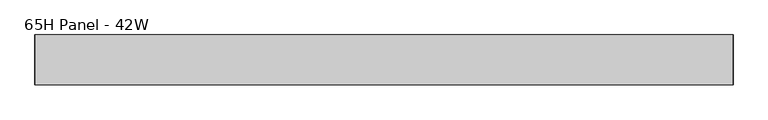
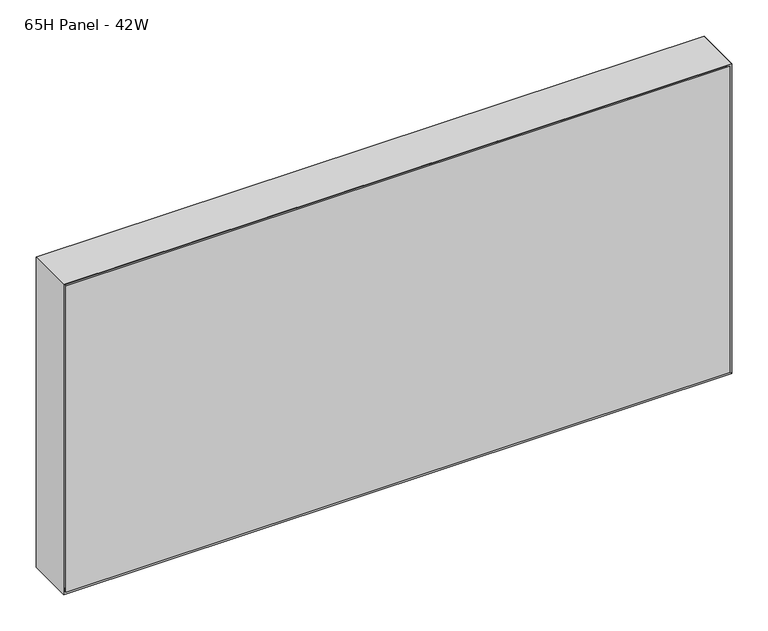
"""IFC4 building model written with IfcOpenShell, lengths in millimetres: furniture geometry, Steelcase - Montage - Frame - 20H - Enhanced Standard - Single Stack-On : 65H Panel - 42W."""

import ifcopenshell
import ifcopenshell.guid

model = None  # the IFC model being written
_history = None  # IfcOwnerHistory: only IFC2X3 demands one
_inside = {}  # id of a spatial element -> (the spatial element, [elements in it])
_under = {}  # id of a project, library or spatial element -> (it, [spatial elements below it])
_declared = {}  # id of a project -> (the project, [libraries it declares])
_typed = {}  # id of a type object -> (the type object, [elements of that type])
_made_of = {}  # id of a material, layer set ... -> (it, [elements and type objects made of it])


def new_model(schema):
    """Start an empty IFC model of exactly this schema.

    Asked for "IFC4X3", IfcOpenShell would pick the latest addendum, in which some entities
    have other attributes; the version numbers below select the first issue.
    IFC2X3 requires an IfcOwnerHistory on every rooted entity: one is made here for all.
    """
    global model, _history
    if schema == "IFC4X3":
        model = ifcopenshell.file(schema_version=(4, 3, 0, 0))
    else:
        model = ifcopenshell.file(schema=schema)
    _inside.clear()
    _under.clear()
    _declared.clear()
    _typed.clear()
    _made_of.clear()
    _history = None
    if model.schema == "IFC2X3":
        org = make("IfcOrganization", Name="unknown")
        user = make(
            "IfcPersonAndOrganization",
            ThePerson=make("IfcPerson", FamilyName="unknown"),
            TheOrganization=org,
        )
        app = make(
            "IfcApplication",
            ApplicationDeveloper=org,
            Version="unknown",
            ApplicationFullName="unknown",
            ApplicationIdentifier="unknown",
        )
        _history = make(
            "IfcOwnerHistory",
            OwningUser=user,
            OwningApplication=app,
            ChangeAction="ADDED",
            CreationDate=0,
        )
    return model


def make(cls, **values):
    """One entity of the class cls with the attributes given. An attribute that is None is left unset."""
    return model.create_entity(
        cls, **{name: value for name, value in values.items() if value is not None}
    )


def rooted(cls, **values):
    """An entity with a GlobalId (a new one), such as an element, a storey or a relation."""
    return make(cls, GlobalId=ifcopenshell.guid.new(), OwnerHistory=_history, **values)


def si_unit(unit_type, name, prefix=None):
    """IfcSIUnit, for example si_unit("LENGTHUNIT", "METRE", prefix="MILLI")."""
    return make("IfcSIUnit", UnitType=unit_type, Prefix=prefix, Name=name)


def assignment(units):
    """IfcUnitAssignment: the units of a project."""
    return None if units is None else make("IfcUnitAssignment", Units=units)


def point(xyz):
    """IfcCartesianPoint."""
    return None if xyz is None else make("IfcCartesianPoint", Coordinates=xyz)


def direction(xyz):
    """IfcDirection."""
    return None if xyz is None else make("IfcDirection", DirectionRatios=xyz)


def frame(location, z_axis=None, x_axis=None):
    """IfcAxis2Placement3D, a coordinate frame: its origin and axes. An axis left out is left unset."""
    return make(
        "IfcAxis2Placement3D",
        Location=point(location),
        Axis=direction(z_axis),
        RefDirection=direction(x_axis),
    )


def origin():
    """The frame at (0, 0, 0) with its axes left unset."""
    return frame((0.0, 0.0, 0.0))


def place(relative_to, where):
    """IfcLocalPlacement: puts the frame where relative to a parent placement (None: the world)."""
    return make(
        "IfcLocalPlacement", PlacementRelTo=relative_to, RelativePlacement=where
    )


def context(
    kind, dimensions, precision=None, world=None, true_north=None, identifier=None
):
    """IfcGeometricRepresentationContext, for example the 3D "Model" context."""
    return make(
        "IfcGeometricRepresentationContext",
        ContextIdentifier=identifier,
        ContextType=kind,
        CoordinateSpaceDimension=dimensions,
        Precision=precision,
        WorldCoordinateSystem=world,
        TrueNorth=true_north,
    )


def project(units=None, contexts=None):
    """IfcProject with its units and contexts."""
    return rooted(
        "IfcProject",
        Name="project",
        RepresentationContexts=contexts,
        UnitsInContext=assignment(units),
    )


def spatial(cls, under=None, at=None, **own):
    """A site, building, storey or space (cls), placed at a placement, below another one or the project."""
    s = rooted(cls, ObjectPlacement=at, **own)
    if under is not None:
        _under.setdefault(under.id(), (under, []))[1].append(s)
    return s


def polyline(points):
    """IfcPolyline through the points."""
    return make("IfcPolyline", Points=[point(p) for p in points])


def outline(outer, holes=None, kind="AREA"):
    """IfcArbitraryClosedProfileDef: a profile drawn as a closed curve; with holes, ...WithVoids."""
    if holes is None:
        return make("IfcArbitraryClosedProfileDef", ProfileType=kind, OuterCurve=outer)
    return make(
        "IfcArbitraryProfileDefWithVoids",
        ProfileType=kind,
        OuterCurve=outer,
        InnerCurves=holes,
    )


def extrude(swept, where, along, depth):
    """IfcExtrudedAreaSolid: the profile swept, set in the frame where, extruded along a direction by depth."""
    return make(
        "IfcExtrudedAreaSolid",
        SweptArea=swept,
        Position=where,
        ExtrudedDirection=direction(along),
        Depth=depth,
    )


def faces_of(points, faces, orient=None, outer=None):
    """IfcFace entities. A face is a list of loops; a loop is a list of indices into points, from 0.

    orient and outer hold one flag for each loop. By default every Orientation is true, the
    first loop of a face is its IfcFaceOuterBound and the others are IfcFaceBound.
    """
    made = []
    for i, loops in enumerate(faces):
        bounds = []
        for j, loop in enumerate(loops):
            is_outer = j == 0 if outer is None else outer[i][j]
            bounds.append(
                make(
                    "IfcFaceOuterBound" if is_outer else "IfcFaceBound",
                    Bound=make("IfcPolyLoop", Polygon=[points[k] for k in loop]),
                    Orientation=True if orient is None else orient[i][j],
                )
            )
        made.append(make("IfcFace", Bounds=bounds))
    return made


def faceted_brep(points, faces, orient=None, outer=None, voids=None):
    """IfcFacetedBrep: a solid bounded by flat faces; with voids (closed shells), ...WithVoids."""
    shared = [point(p) for p in points]
    hull = make("IfcClosedShell", CfsFaces=faces_of(shared, faces, orient, outer))
    if voids is None:
        return make("IfcFacetedBrep", Outer=hull)
    return make(
        "IfcFacetedBrepWithVoids",
        Outer=hull,
        Voids=[
            make(cls, CfsFaces=faces_of(shared, fs, o, b)) for cls, fs, o, b in voids
        ],
    )


def shape(context_of_items, identifier, shape_type, items):
    """IfcShapeRepresentation: the items that make up one representation, for example the "Body"."""
    return make(
        "IfcShapeRepresentation",
        ContextOfItems=context_of_items,
        RepresentationIdentifier=identifier,
        RepresentationType=shape_type,
        Items=items,
    )


def source(mapping_origin, context_of_items, identifier, shape_type, items):
    """IfcRepresentationMap: a shape defined once, which mapped items show again and again."""
    return make(
        "IfcRepresentationMap",
        MappingOrigin=mapping_origin,
        MappedRepresentation=shape(context_of_items, identifier, shape_type, items),
    )


def transform(
    local_origin,
    x_axis=None,
    y_axis=None,
    z_axis=None,
    scale=None,
    scale2=None,
    scale3=None,
    uniform=True,
):
    """IfcCartesianTransformationOperator3D, or its non-uniform kind. x_axis, y_axis, z_axis: its Axis1, 2, 3."""
    if uniform:
        return make(
            "IfcCartesianTransformationOperator3D",
            Axis1=direction(x_axis),
            Axis2=direction(y_axis),
            LocalOrigin=point(local_origin),
            Scale=scale,
            Axis3=direction(z_axis),
        )
    return make(
        "IfcCartesianTransformationOperator3DnonUniform",
        Axis1=direction(x_axis),
        Axis2=direction(y_axis),
        LocalOrigin=point(local_origin),
        Scale=scale,
        Axis3=direction(z_axis),
        Scale2=scale2,
        Scale3=scale3,
    )


def mapped(mapping_source, mapping_target):
    """IfcMappedItem: shows the shape of a source again, moved by a transform."""
    return make(
        "IfcMappedItem", MappingSource=mapping_source, MappingTarget=mapping_target
    )


def made_of(thing, what):
    """Note that an element or type object is made of a material, layer set ...; save() writes the relation."""
    if what is not None:
        _made_of.setdefault(what.id(), (what, []))[1].append(thing)
    return thing


def element(
    cls,
    number,
    at=None,
    inside=None,
    cuts=None,
    type_object=None,
    material=None,
    context=None,
    identifier="Body",
    shape_type=None,
    held_by="IfcProductDefinitionShape",
    body=None,
    shapes=None,
    **own,
):
    """One element of the class cls, such as IfcWall. Its Tag is "e" and its number.

    at: its placement. inside: the storey or other place that contains it. cuts: it is an
    opening in that element (IfcRelVoidsElement). A single representation is given by context,
    identifier, shape_type and body (its items); several are given by shapes. held_by: the class
    of the entity that holds the representations. save() writes the other relations.
    """
    e = rooted(cls, Tag="e%d" % number, ObjectPlacement=at, **own)
    if body is not None:
        shapes = [shape(context, identifier, shape_type, body)]
    if shapes is not None:
        e.Representation = make(held_by, Representations=shapes)
    if inside is not None:
        _inside.setdefault(inside.id(), (inside, []))[1].append(e)
    if cuts is not None:
        rooted(
            "IfcRelVoidsElement", RelatingBuildingElement=cuts, RelatedOpeningElement=e
        )
    if type_object is not None:
        _typed.setdefault(type_object.id(), (type_object, []))[1].append(e)
    return made_of(e, material)


def aggregate(whole, parts):
    """IfcRelAggregates: a whole, such as a stair, and the parts it consists of."""
    return rooted("IfcRelAggregates", RelatingObject=whole, RelatedObjects=parts)


def save(model, path):
    """Write the relations noted so far, then the file.

    IfcRelAggregates (storeys below a building ...), IfcRelContainedInSpatialStructure (elements
    in a storey), IfcRelDefinesByType, IfcRelAssociatesMaterial and IfcRelDeclares: one each for
    every whole, place, type object, material and project.
    """
    for whole, parts in _under.values():
        aggregate(whole, parts)
    for where, things in _inside.values():
        rooted(
            "IfcRelContainedInSpatialStructure",
            RelatedElements=things,
            RelatingStructure=where,
        )
    for kind, things in _typed.values():
        rooted("IfcRelDefinesByType", RelatedObjects=things, RelatingType=kind)
    for what, things in _made_of.values():
        rooted("IfcRelAssociatesMaterial", RelatedObjects=things, RelatingMaterial=what)
    for by, libraries in _declared.values():
        rooted("IfcRelDeclares", RelatingContext=by, RelatedDefinitions=libraries)
    model.write(path)


def furniture_65h_panel_42w_97e6850d(model_context):
    return source(origin(), model_context, "Body", "SolidModel", [
        faceted_brep([(1057.2750027, 31.7500194, 2174.8749516), (9.5250028, 31.7500194, 2174.8749516), (9.5250028, 31.7500194, 1670.05), (1057.2750027, 31.7500194, 1670.05), (1063.625, 38.1000194, 2181.2249516), (1063.625, 38.1000194, 1663.7), (3.175, 38.1000194, 1663.7), (3.175, 38.1000194, 2181.2249516)], [[[0, 1, 2, 3]], [[4, 5, 6, 7]], [[4, 0, 3, 5]], [[5, 3, 2, 6]], [[6, 2, 1, 7]], [[7, 1, 0, 4]]]),
        faceted_brep([(1057.2750027, -31.7500194, 2174.8749516), (1057.2750027, -31.7500194, 1670.05), (9.5250028, -31.7500194, 1670.05), (9.5250028, -31.7500194, 2174.8749516), (1063.625, -38.1000194, 2181.2249516), (3.175, -38.1000194, 2181.2249516), (3.175, -38.1000194, 1663.7), (1063.625, -38.1000194, 1663.7)], [[[0, 1, 2, 3]], [[4, 5, 6, 7]], [[4, 7, 1, 0]], [[7, 6, 2, 1]], [[6, 5, 3, 2]], [[5, 4, 0, 3]]]),
        faceted_brep([(1066.8, -38.1000015, 1660.525), (1066.8, 38.1000015, 1660.525), (1066.8, 38.1000015, 2184.3999516), (1066.8, -38.1000106, 2184.3999515), (0.0, 38.1000015, 1660.525), (0.0, -38.1000015, 1660.525), (0.0, -38.1000015, 2184.3999516), (0.0, 38.1000015, 2184.3999516), (6.3500484, 31.749953, 1666.8750484), (1060.4499879, 31.749953, 1666.8750484), (6.35, -31.749953, 1666.8750484), (1060.4499879, -31.749953, 1666.8750484), (6.3500165, 31.749985, 2178.049935), (6.3500006, -31.7500009, 2178.0499031), (1060.4499879, -31.7499979, 2178.0499031), (1060.4499879, 31.7499889, 2178.0499394)], [[[0, 1, 2, 3]], [[4, 5, 6, 7]], [[1, 0, 5, 4]], [[1, 4, 8, 9]], [[9, 8, 10, 11]], [[5, 0, 11, 10]], [[4, 7, 12, 8]], [[6, 5, 10, 13]], [[10, 8, 12, 13]], [[9, 11, 14, 15]], [[0, 3, 14, 11]], [[2, 1, 9, 15]], [[3, 2, 15, 14]], [[7, 6, 13, 12]]]),
        faceted_brep([(1066.8, -38.1000015, 2184.3999516), (0.0, -38.1000015, 2184.3999516), (6.3500484, -31.749953, 2178.0499031), (1060.4499516, -31.749953, 2178.0499031), (6.3500484, 31.749953, 2178.0499031), (1060.4499516, 31.749953, 2178.0499031), (0.0, 38.1000015, 2184.3999516), (1066.8, 38.1000015, 2184.3999516)], [[[0, 1, 2, 3]], [[3, 2, 4, 5]], [[6, 7, 5, 4]], [[1, 0, 7, 6]], [[2, 1, 6, 4]], [[0, 3, 5, 7]]]),
        extrude(outline(polyline([(1060.4499879, 31.7500016), (1060.4499879, -31.7499985), (6.35, -31.7499985), (6.35, 31.7500016), (1060.4499879, 31.7500016)])), frame((0.0, 0.0, 1666.8702145), z_axis=(0.0, 0.0, 1.0), x_axis=(1.0, 0.0, 0.0)), (0.0, 0.0, 1.0), 511.1796886),
    ])


if __name__ == "__main__":
    model = new_model("IFC4")
    model_context = context("Model", 3, world=origin())
    ifc_project = project(units=[si_unit("LENGTHUNIT", "METRE", prefix="MILLI")], contexts=[model_context])
    site = spatial("IfcSite", under=ifc_project)
    building = spatial("IfcBuilding", under=site)
    placement = place(None, origin())
    furniture_65h_panel_42w_shape = furniture_65h_panel_42w_97e6850d(model_context)
    element("IfcFurniture", 1, ObjectType="Steelcase - Montage - Frame - 20H - Enhanced Standard - Single Stack-On : 65H Panel - 42W", at=placement, inside=building, context=model_context, shape_type="MappedRepresentation", body=[
        mapped(furniture_65h_panel_42w_shape, transform((0.0, 0.0, 0.0), x_axis=(1.0, 0.0, 0.0), y_axis=(0.0, 1.0, 0.0), z_axis=(0.0, 0.0, 1.0))),
    ])
    save(model, "model.ifc")
